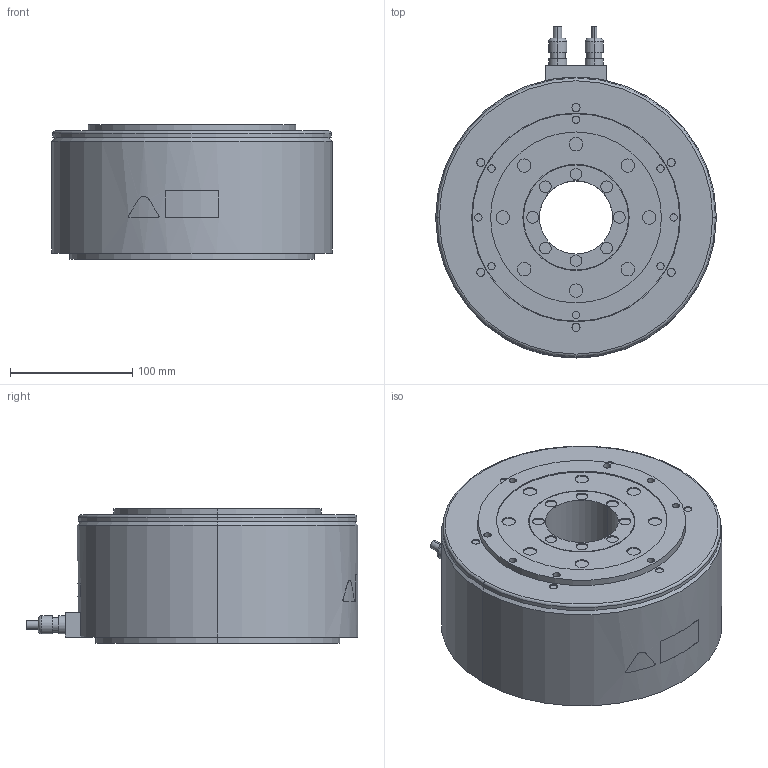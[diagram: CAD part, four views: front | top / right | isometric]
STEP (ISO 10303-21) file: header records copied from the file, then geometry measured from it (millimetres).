
FILE_DESCRIPTION (( 'STEP AP203' ), '1' );
FILE_NAME ('sgm7e_17d_a4_.STEP', '2016-06-02T07:02:55', ( '' ), ( '' ), 'SwSTEP 2.0', 'SolidWorks 2010', '' );
FILE_SCHEMA (( 'CONFIG_CONTROL_DESIGN' ));
Length unit declared in the file: millimetre
Products named in the file (1): sgm7e_17d_a4_
Bounding box: 230 x 272 x 110 mm (x, y, z)
Volume: 4102258.8 mm3; surface area: 186657.7 mm2
Topology: 1 solids, 1 shells, 234 faces, 480 edges, 316 vertices
Faces by surface type: cylinder 138, plane 81, torus 6, bspline 5, cone 4
Entity records: 6763 total; most frequent: CARTESIAN_POINT 1464, DIRECTION 1220, ORIENTED_EDGE 960, AXIS2_PLACEMENT_3D 526, EDGE_CURVE 480, VERTEX_POINT 316, EDGE_LOOP 304, CIRCLE 296
